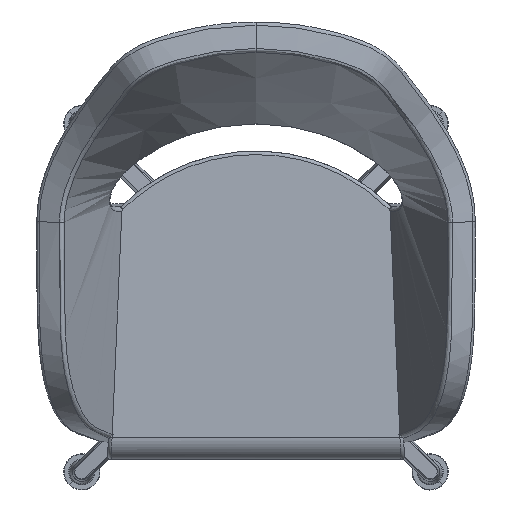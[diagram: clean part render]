
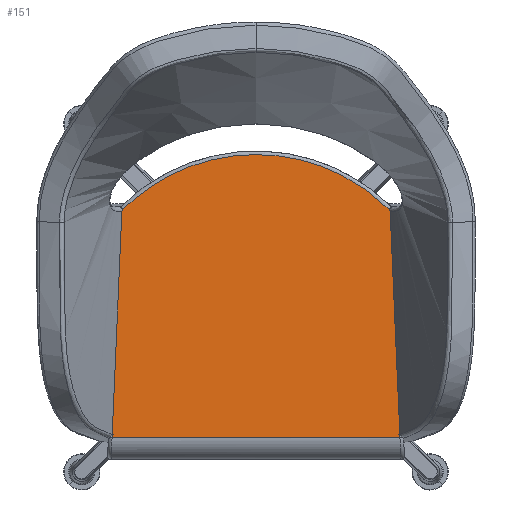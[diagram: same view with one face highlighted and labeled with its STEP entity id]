
A CAD part, top view. The second image highlights one B-rep face of the part: STEP entity #151.
In plain terms, the highlighted planar face has unit normal (0, 0.026, 1).
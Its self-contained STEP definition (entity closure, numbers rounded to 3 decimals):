
#74=PLANE('',#3393);
#151=ADVANCED_FACE('',(#376),#74,.T.);
#376=FACE_OUTER_BOUND('',#601,.T.);
#601=EDGE_LOOP('',(#895,#896,#897,#898,#899,#900));
#895=ORIENTED_EDGE('',*,*,#1844,.T.);
#896=ORIENTED_EDGE('',*,*,#1874,.T.);
#897=ORIENTED_EDGE('',*,*,#1867,.T.);
#898=ORIENTED_EDGE('',*,*,#1870,.T.);
#899=ORIENTED_EDGE('',*,*,#1861,.T.);
#900=ORIENTED_EDGE('',*,*,#1823,.F.);
#1823=EDGE_CURVE('',#2589,#2592,#3053,.T.);
#1844=EDGE_CURVE('',#2589,#2590,#2322,.T.);
#1861=EDGE_CURVE('',#2591,#2592,#2339,.T.);
#1867=EDGE_CURVE('',#2593,#2594,#2345,.T.);
#1870=EDGE_CURVE('',#2594,#2591,#2348,.T.);
#1874=EDGE_CURVE('',#2590,#2593,#2352,.T.);
#2322=(
BOUNDED_CURVE()
B_SPLINE_CURVE(1,(#4053,#4054),.UNSPECIFIED.,.F.,.F.)
B_SPLINE_CURVE_WITH_KNOTS((2,2),(0.217,311.552),
 .UNSPECIFIED.)
CURVE()
GEOMETRIC_REPRESENTATION_ITEM()
RATIONAL_B_SPLINE_CURVE((1.,1.))
REPRESENTATION_ITEM('')
);
#2339=(
BOUNDED_CURVE()
B_SPLINE_CURVE(1,(#4132,#4133),.UNSPECIFIED.,.F.,.F.)
B_SPLINE_CURVE_WITH_KNOTS((2,2),(0.,311.335),.UNSPECIFIED.)
CURVE()
GEOMETRIC_REPRESENTATION_ITEM()
RATIONAL_B_SPLINE_CURVE((1.,1.))
REPRESENTATION_ITEM('')
);
#2345=(
BOUNDED_CURVE()
B_SPLINE_CURVE(3,(#4155,#4156,#4157,#4158,#4159,#4160,#4161,#4162,#4163),
 .UNSPECIFIED.,.F.,.F.)
B_SPLINE_CURVE_WITH_KNOTS((4,1,1,1,1,1,4),(0.,87.476,
145.46,203.877,262.294,320.278,407.755),
 .UNSPECIFIED.)
CURVE()
GEOMETRIC_REPRESENTATION_ITEM()
RATIONAL_B_SPLINE_CURVE((1.,1.,1.,1.,1.,1.,
1.,1.,1.))
REPRESENTATION_ITEM('')
);
#2348=(
BOUNDED_CURVE()
B_SPLINE_CURVE(3,(#4171,#4172,#4173,#4174),.UNSPECIFIED.,.F.,.F.)
B_SPLINE_CURVE_WITH_KNOTS((4,4),(0.,3.725),.UNSPECIFIED.)
CURVE()
GEOMETRIC_REPRESENTATION_ITEM()
RATIONAL_B_SPLINE_CURVE((1.,1.,1.,1.))
REPRESENTATION_ITEM('')
);
#2352=(
BOUNDED_CURVE()
B_SPLINE_CURVE(3,(#4187,#4188,#4189,#4190),.UNSPECIFIED.,.F.,.F.)
B_SPLINE_CURVE_WITH_KNOTS((4,4),(0.,3.725),
 .UNSPECIFIED.)
CURVE()
GEOMETRIC_REPRESENTATION_ITEM()
RATIONAL_B_SPLINE_CURVE((1.,1.,1.,1.))
REPRESENTATION_ITEM('')
);
#2589=VERTEX_POINT('',#3953);
#2590=VERTEX_POINT('',#3954);
#2591=VERTEX_POINT('',#3955);
#2592=VERTEX_POINT('',#3956);
#2593=VERTEX_POINT('',#3957);
#2594=VERTEX_POINT('',#3958);
#3053=B_SPLINE_CURVE_WITH_KNOTS('',1,(#3983,#3984),.UNSPECIFIED.,.F.,.F.,
(2,2),(6.309,403.691),.UNSPECIFIED.);
#3393=AXIS2_PLACEMENT_3D('',#3657,#3445,$);
#3445=DIRECTION('',(0.,0.026,1.));
#3657=CARTESIAN_POINT('',(256.25,254.834,468.879));
#3953=CARTESIAN_POINT('',(198.691,-193.301,480.634));
#3954=CARTESIAN_POINT('',(185.173,117.633,472.478));
#3955=CARTESIAN_POINT('',(-185.173,117.633,472.478));
#3956=CARTESIAN_POINT('',(-198.691,-193.301,480.634));
#3957=CARTESIAN_POINT('',(183.703,120.962,472.391));
#3958=CARTESIAN_POINT('',(-183.703,120.962,472.391));
#3983=CARTESIAN_POINT('',(198.691,-193.301,480.634));
#3984=CARTESIAN_POINT('',(-198.691,-193.301,480.634));
#4053=CARTESIAN_POINT('',(198.691,-193.301,480.634));
#4054=CARTESIAN_POINT('',(185.173,117.633,472.478));
#4132=CARTESIAN_POINT('',(-185.173,117.633,472.478));
#4133=CARTESIAN_POINT('',(-198.691,-193.301,480.634));
#4155=CARTESIAN_POINT('',(183.703,120.962,472.391));
#4156=CARTESIAN_POINT('',(163.031,141.522,471.851));
#4157=CARTESIAN_POINT('',(122.845,169.845,471.108));
#4158=CARTESIAN_POINT('',(58.271,192.343,470.518));
#4159=CARTESIAN_POINT('',(0.,198.906,470.346));
#4160=CARTESIAN_POINT('',(-58.271,192.343,470.518));
#4161=CARTESIAN_POINT('',(-122.845,169.845,471.108));
#4162=CARTESIAN_POINT('',(-163.031,141.522,471.851));
#4163=CARTESIAN_POINT('',(-183.703,120.962,472.391));
#4171=CARTESIAN_POINT('',(-183.703,120.962,472.391));
#4172=CARTESIAN_POINT('',(-184.587,120.088,472.413));
#4173=CARTESIAN_POINT('',(-185.123,118.875,472.445));
#4174=CARTESIAN_POINT('',(-185.173,117.633,472.478));
#4187=CARTESIAN_POINT('',(185.173,117.633,472.478));
#4188=CARTESIAN_POINT('',(185.123,118.875,472.445));
#4189=CARTESIAN_POINT('',(184.587,120.088,472.413));
#4190=CARTESIAN_POINT('',(183.703,120.962,472.391));
